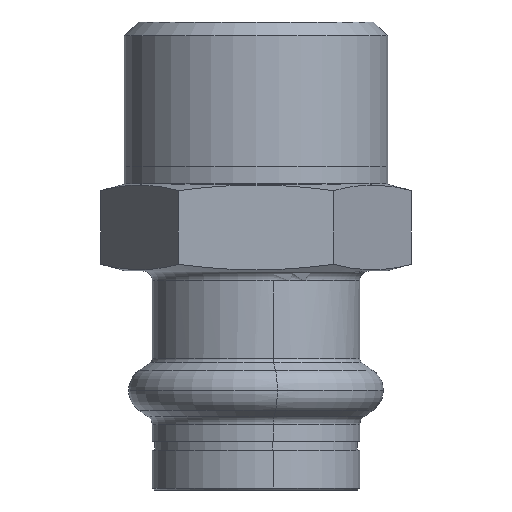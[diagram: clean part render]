
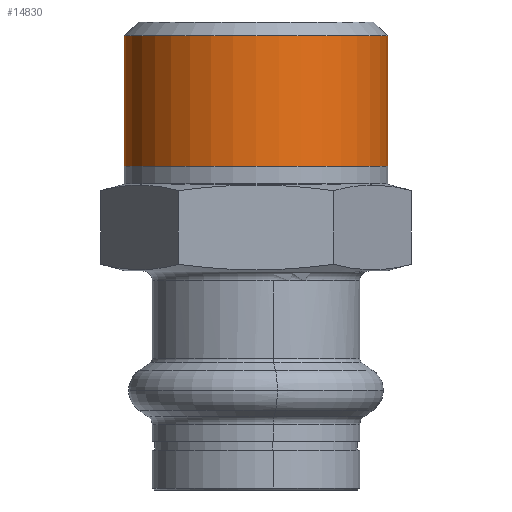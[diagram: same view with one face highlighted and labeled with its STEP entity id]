
A CAD part, front view. The second image highlights one B-rep face of the part: STEP entity #14830.
In plain terms, the highlighted cylindrical face has radius 13.22 mm (diameter 26.441 mm), a partial arc.
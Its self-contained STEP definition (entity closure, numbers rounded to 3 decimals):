
#13260=CARTESIAN_POINT('',(42.609,46.95,7.7));
#13270=DIRECTION('',(0.,0.,1.));
#13280=DIRECTION('',(1.,0.,0.));
#13290=AXIS2_PLACEMENT_3D('',#13260,#13270,#13280);
#13300=CYLINDRICAL_SURFACE('',#13290,13.221);
#14340=CARTESIAN_POINT('',(29.388,46.95,9.5));
#14350=VERTEX_POINT('',#14340);
#14380=CARTESIAN_POINT('',(42.609,46.95,9.5));
#14390=DIRECTION('',(0.,0.,1.));
#14400=DIRECTION('',(1.,0.,0.));
#14410=AXIS2_PLACEMENT_3D('',#14380,#14390,#14400);
#14420=CIRCLE('',#14410,13.221);
#14430=CARTESIAN_POINT('',(55.829,46.95,9.5));
#14440=VERTEX_POINT('',#14430);
#14450=EDGE_CURVE('',#14350,#14440,#14420,.T.);
#14570=CARTESIAN_POINT('',(29.388,46.95,7.7));
#14580=DIRECTION('',(0.,0.,1.));
#14590=VECTOR('',#14580,1.);
#14600=LINE('',#14570,#14590);
#14610=CARTESIAN_POINT('',(29.388,46.95,22.6));
#14620=VERTEX_POINT('',#14610);
#14630=EDGE_CURVE('',#14350,#14620,#14600,.T.);
#14640=ORIENTED_EDGE('',*,*,#14630,.F.);
#14650=CARTESIAN_POINT('',(42.609,46.95,22.6));
#14660=DIRECTION('',(0.,0.,1.));
#14670=DIRECTION('',(1.,0.,0.));
#14680=AXIS2_PLACEMENT_3D('',#14650,#14660,#14670);
#14690=CIRCLE('',#14680,13.221);
#14700=CARTESIAN_POINT('',(55.829,46.95,22.6));
#14710=VERTEX_POINT('',#14700);
#14720=EDGE_CURVE('',#14620,#14710,#14690,.T.);
#14730=ORIENTED_EDGE('',*,*,#14720,.F.);
#14740=CARTESIAN_POINT('',(55.829,46.95,7.7));
#14750=DIRECTION('',(0.,0.,1.));
#14760=VECTOR('',#14750,1.);
#14770=LINE('',#14740,#14760);
#14780=EDGE_CURVE('',#14440,#14710,#14770,.T.);
#14790=ORIENTED_EDGE('',*,*,#14780,.T.);
#14800=ORIENTED_EDGE('',*,*,#14450,.T.);
#14810=EDGE_LOOP('',(#14800,#14790,#14730,#14640));
#14820=FACE_OUTER_BOUND('',#14810,.T.);
#14830=ADVANCED_FACE('1.040984-14_1090805',(#14820),#13300,.T.);
